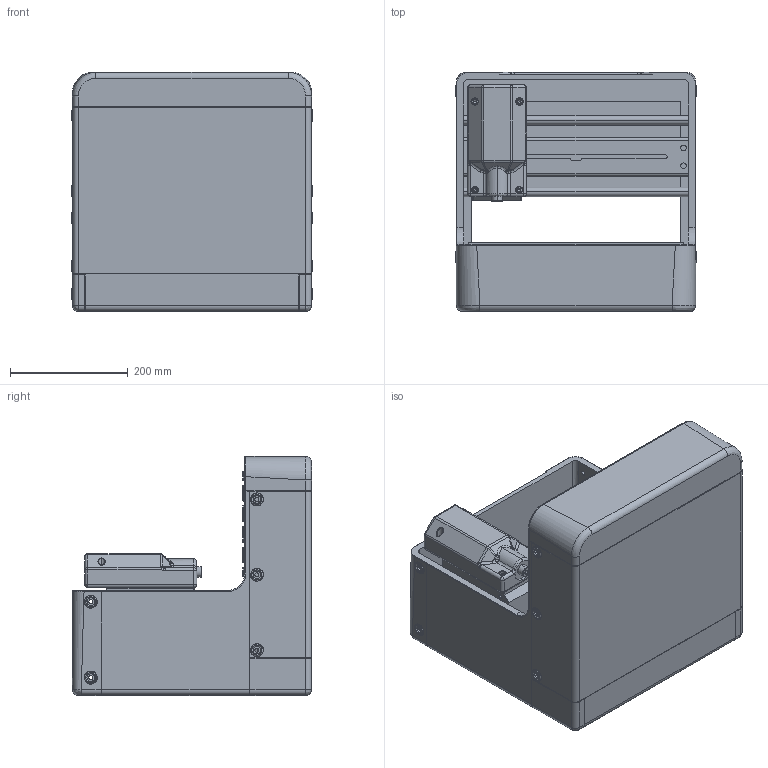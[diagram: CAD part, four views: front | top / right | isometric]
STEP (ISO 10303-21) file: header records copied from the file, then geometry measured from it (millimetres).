
FILE_DESCRIPTION (( 'STEP AP214' ), '1' );
FILE_NAME ('TORMACH_XSTECH_MACHINE_ASY.STEP', '2021-02-11T21:36:31', ( '' ), ( '' ), 'SwSTEP 2.0', 'SolidWorks 2016', '' );
FILE_SCHEMA (( 'AUTOMOTIVE_DESIGN' ));
Length unit declared in the file: millimetre
Products named in the file (5): Frame; TORMACH_XSTECH_MACHINE_ASY; table; spindle; carriage
Assembly tree (4 placements, depth 2):
  TORMACH_XSTECH_MACHINE_ASY
    Frame
    table
    carriage
    spindle
Bounding box: 408 x 406 x 406 mm (x, y, z)
Volume: 10449853.1 mm3; surface area: 2083875 mm2
Topology: 4 solids, 4 shells, 1363 faces, 3238 edges, 1785 vertices
Faces by surface type: cylinder 570, bspline 433, plane 321, cone 39
Entity records: 55502 total; most frequent: CARTESIAN_POINT 25764, ORIENTED_EDGE 6198, DIRECTION 5681, EDGE_CURVE 3099, AXIS2_PLACEMENT_3D 2136, VERTEX_POINT 1785, EDGE_LOOP 1468, LINE 1409
